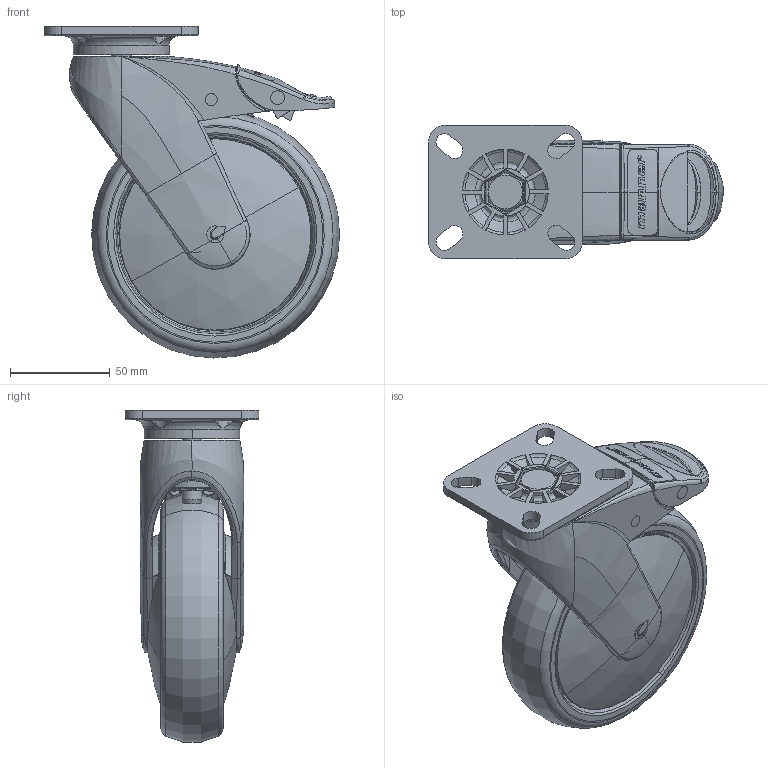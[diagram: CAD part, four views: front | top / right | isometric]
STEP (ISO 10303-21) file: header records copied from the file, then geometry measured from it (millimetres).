
FILE_DESCRIPTION (( 'STEP AP203' ), '1' );
FILE_NAME ('301715_STEP.STEP', '2011-06-22T08:04:40', ( '' ), ( '' ), 'SwSTEP 2.0', 'SolidWorks 2011', '' );
FILE_SCHEMA (( 'CONFIG_CONTROL_DESIGN' ));
Length unit declared in the file: millimetre
Products named in the file (1): 301715_STEP
Bounding box: 147.77 x 67.05 x 166.25 mm (x, y, z)
Surface area: 122926.2 mm2 (no closed solid volume)
Topology: 0 solids, 27 shells, 684 faces, 3165 edges, 2439 vertices
Faces by surface type: bspline 319, plane 164, cylinder 103, cone 48, torus 46, sphere 4
Entity records: 105797 total; most frequent: CARTESIAN_POINT 85698, ORIENTED_EDGE 5070, EDGE_CURVE 3153, VERTEX_POINT 2439, DIRECTION 2242, B_SPLINE_CURVE_WITH_KNOTS 1946, AXIS2_PLACEMENT_3D 822, EDGE_LOOP 731
